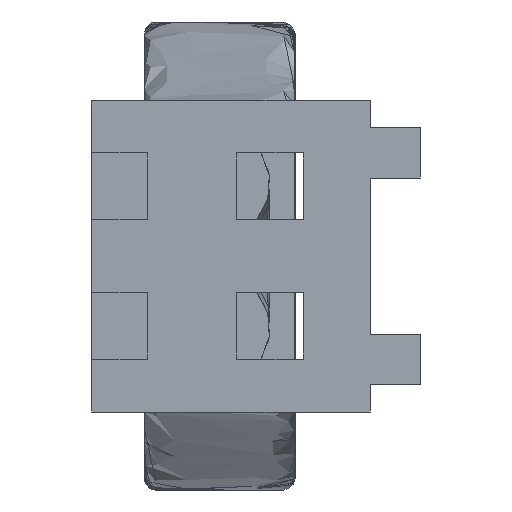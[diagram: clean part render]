
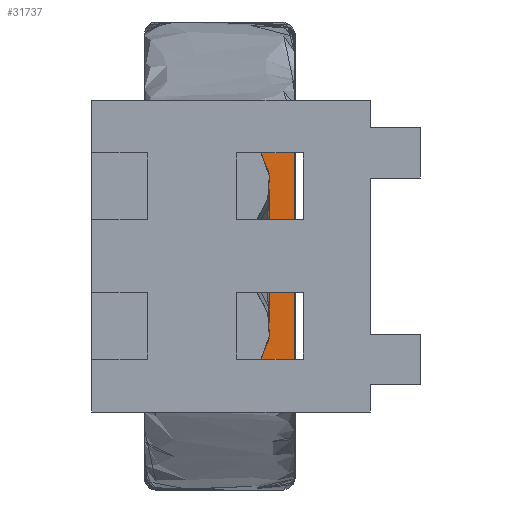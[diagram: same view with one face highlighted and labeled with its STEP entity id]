
A CAD part, left-side view. The second image highlights one B-rep face of the part: STEP entity #31737.
In plain terms, the highlighted planar face has unit normal (-1, 0, 0).
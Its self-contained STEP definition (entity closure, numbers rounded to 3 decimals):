
#2911 = FACE_OUTER_BOUND ( 'NONE', #29489, .T. ) ;
#3738 = CIRCLE ( 'NONE', #28755, 0.2 ) ;
#8259 = ORIENTED_EDGE ( 'NONE', *, *, #56509, .F. ) ;
#12328 = EDGE_CURVE ( 'NONE', #56380, #64159, #66540, .T. ) ;
#12769 = ORIENTED_EDGE ( 'NONE', *, *, #68828, .F. ) ;
#15141 = CARTESIAN_POINT ( 'NONE',  ( -965., 2.3, 2.7 ) ) ;
#15217 = VERTEX_POINT ( 'NONE', #58373 ) ;
#15734 = AXIS2_PLACEMENT_3D ( 'NONE', #34215, #55571, #22818 ) ;
#16784 = EDGE_CURVE ( 'NONE', #55674, #56380, #47585, .T. ) ;
#16852 = DIRECTION ( 'NONE',  ( 0., 0., -1. ) ) ;
#16863 = ORIENTED_EDGE ( 'NONE', *, *, #26580, .F. ) ;
#17847 = EDGE_CURVE ( 'NONE', #32438, #49984, #63909, .T. ) ;
#17934 = VERTEX_POINT ( 'NONE', #21538 ) ;
#20886 = AXIS2_PLACEMENT_3D ( 'NONE', #25404, #32147, #53852 ) ;
#21538 = CARTESIAN_POINT ( 'NONE',  ( -965., 0., -2.7 ) ) ;
#22818 = DIRECTION ( 'NONE',  ( 0., 0., 1. ) ) ;
#22884 = VECTOR ( 'NONE', #34615, 1000. ) ;
#23225 = CARTESIAN_POINT ( 'NONE',  ( -965., 2.3, -2.7 ) ) ;
#23268 = DIRECTION ( 'NONE',  ( 1., 0., 0. ) ) ;
#24890 = DIRECTION ( 'NONE',  ( 0., 0., -1. ) ) ;
#25263 = LINE ( 'NONE', #25613, #66383 ) ;
#25404 = CARTESIAN_POINT ( 'NONE',  ( -965., 0., -2.5 ) ) ;
#25613 = CARTESIAN_POINT ( 'NONE',  ( -965., -0.2, 2.5 ) ) ;
#26580 = EDGE_CURVE ( 'NONE', #49984, #15217, #31946, .T. ) ;
#26981 = CARTESIAN_POINT ( 'NONE',  ( -965., 2.3, -2.7 ) ) ;
#28755 = AXIS2_PLACEMENT_3D ( 'NONE', #65948, #65592, #43931 ) ;
#29489 = EDGE_LOOP ( 'NONE', ( #68903, #52517, #16863, #53757, #8259, #60172, #40724, #12769 ) ) ;
#29606 = LINE ( 'NONE', #23225, #22884 ) ;
#30313 = DIRECTION ( 'NONE',  ( 0., 0., -1. ) ) ;
#31737 = ADVANCED_FACE ( 'NONE', ( #2911 ), #61290, .T. ) ;
#31946 = CIRCLE ( 'NONE', #66034, 0.2 ) ;
#32147 = DIRECTION ( 'NONE',  ( 1., 0., 0. ) ) ;
#32438 = VERTEX_POINT ( 'NONE', #64703 ) ;
#34215 = CARTESIAN_POINT ( 'NONE',  ( -965., 2.3, -2.5 ) ) ;
#34503 = VECTOR ( 'NONE', #55523, 1000. ) ;
#34615 = DIRECTION ( 'NONE',  ( 0., 1., 0. ) ) ;
#36881 = DIRECTION ( 'NONE',  ( 0., -1., 0. ) ) ;
#37521 = CARTESIAN_POINT ( 'NONE',  ( -965., 2.5, 2.5 ) ) ;
#39659 = CARTESIAN_POINT ( 'NONE',  ( -965., 0., 2.5 ) ) ;
#39811 = VERTEX_POINT ( 'NONE', #51567 ) ;
#40724 = ORIENTED_EDGE ( 'NONE', *, *, #16784, .F. ) ;
#43470 = AXIS2_PLACEMENT_3D ( 'NONE', #55987, #68025, #30313 ) ;
#43931 = DIRECTION ( 'NONE',  ( 0., 0., -1. ) ) ;
#44186 = VECTOR ( 'NONE', #36881, 1000. ) ;
#46468 = EDGE_CURVE ( 'NONE', #39811, #17934, #69744, .T. ) ;
#47585 = CIRCLE ( 'NONE', #15734, 0.2 ) ;
#49984 = VERTEX_POINT ( 'NONE', #56934 ) ;
#50202 = CARTESIAN_POINT ( 'NONE',  ( -965., 2.5, 2.5 ) ) ;
#51567 = CARTESIAN_POINT ( 'NONE',  ( -965., -0.2, -2.5 ) ) ;
#52517 = ORIENTED_EDGE ( 'NONE', *, *, #61422, .F. ) ;
#53525 = CARTESIAN_POINT ( 'NONE',  ( -965., 2.5, -2.5 ) ) ;
#53757 = ORIENTED_EDGE ( 'NONE', *, *, #17847, .F. ) ;
#53852 = DIRECTION ( 'NONE',  ( 0., 0., -1. ) ) ;
#55523 = DIRECTION ( 'NONE',  ( 0., 0., 1. ) ) ;
#55571 = DIRECTION ( 'NONE',  ( 1., 0., 0. ) ) ;
#55674 = VERTEX_POINT ( 'NONE', #26981 ) ;
#55987 = CARTESIAN_POINT ( 'NONE',  ( -965., 0., -2.5 ) ) ;
#56380 = VERTEX_POINT ( 'NONE', #53525 ) ;
#56509 = EDGE_CURVE ( 'NONE', #64159, #32438, #3738, .T. ) ;
#56934 = CARTESIAN_POINT ( 'NONE',  ( -965., 0., 2.7 ) ) ;
#58373 = CARTESIAN_POINT ( 'NONE',  ( -965., -0.2, 2.5 ) ) ;
#60172 = ORIENTED_EDGE ( 'NONE', *, *, #12328, .F. ) ;
#61290 = PLANE ( 'NONE',  #43470 ) ;
#61422 = EDGE_CURVE ( 'NONE', #15217, #39811, #25263, .T. ) ;
#63909 = LINE ( 'NONE', #15141, #44186 ) ;
#64159 = VERTEX_POINT ( 'NONE', #37521 ) ;
#64703 = CARTESIAN_POINT ( 'NONE',  ( -965., 2.3, 2.7 ) ) ;
#65592 = DIRECTION ( 'NONE',  ( 1., 0., 0. ) ) ;
#65948 = CARTESIAN_POINT ( 'NONE',  ( -965., 2.3, 2.5 ) ) ;
#66034 = AXIS2_PLACEMENT_3D ( 'NONE', #39659, #23268, #16852 ) ;
#66383 = VECTOR ( 'NONE', #24890, 1000. ) ;
#66540 = LINE ( 'NONE', #50202, #34503 ) ;
#68025 = DIRECTION ( 'NONE',  ( -1., 0., 0. ) ) ;
#68828 = EDGE_CURVE ( 'NONE', #17934, #55674, #29606, .T. ) ;
#68903 = ORIENTED_EDGE ( 'NONE', *, *, #46468, .F. ) ;
#69744 = CIRCLE ( 'NONE', #20886, 0.2 ) ;
